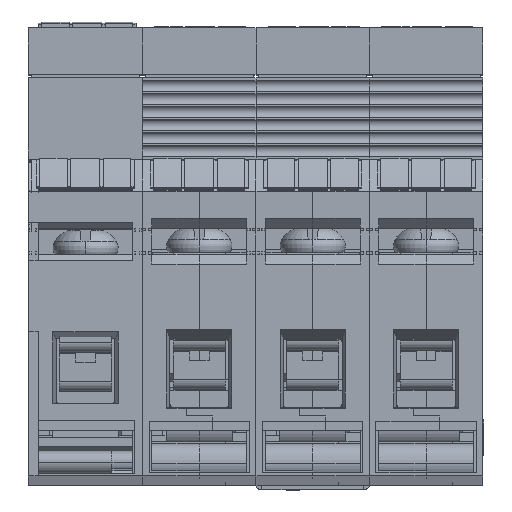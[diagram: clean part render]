
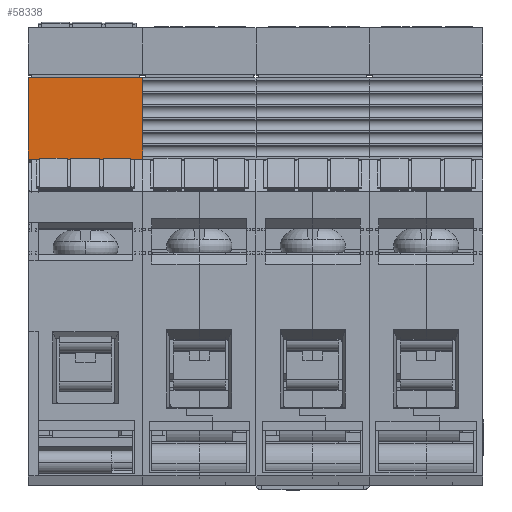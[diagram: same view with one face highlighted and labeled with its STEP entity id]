
A CAD part, top view. The second image highlights one B-rep face of the part: STEP entity #58338.
In plain terms, the highlighted planar face has unit normal (0, 0, 1).
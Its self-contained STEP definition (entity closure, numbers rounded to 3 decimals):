
#583 = DIRECTION ( 'NONE',  ( 1., 0., 0. ) ) ;
#2549 = ORIENTED_EDGE ( 'NONE', *, *, #37283, .T. ) ;
#2748 = VECTOR ( 'NONE', #9735, 1000. ) ;
#9735 = DIRECTION ( 'NONE',  ( 0., -1., 0. ) ) ;
#11425 = FACE_OUTER_BOUND ( 'NONE', #98272, .T. ) ;
#11807 = ORIENTED_EDGE ( 'NONE', *, *, #63575, .F. ) ;
#12043 = DIRECTION ( 'NONE',  ( 1., 0., 0. ) ) ;
#17122 = ORIENTED_EDGE ( 'NONE', *, *, #21855, .F. ) ;
#21736 = CARTESIAN_POINT ( 'NONE',  ( -17.5, 45.6, 22.5 ) ) ;
#21855 = EDGE_CURVE ( 'NONE', #61996, #44784, #113701, .T. ) ;
#23361 = DIRECTION ( 'NONE',  ( 0., -1., 0. ) ) ;
#23827 = EDGE_CURVE ( 'NONE', #61996, #57536, #46014, .T. ) ;
#33471 = LINE ( 'NONE', #102744, #2748 ) ;
#37283 = EDGE_CURVE ( 'NONE', #57536, #37284, #66214, .T. ) ;
#37284 = VERTEX_POINT ( 'NONE', #94880 ) ;
#44784 = VERTEX_POINT ( 'NONE', #61916 ) ;
#46014 = LINE ( 'NONE', #107423, #97074 ) ;
#48748 = PLANE ( 'NONE',  #107609 ) ;
#56086 = CARTESIAN_POINT ( 'NONE',  ( -17.5, 33., 22.5 ) ) ;
#57536 = VERTEX_POINT ( 'NONE', #98750 ) ;
#58338 = ADVANCED_FACE ( 'NONE', ( #11425 ), #48748, .T. ) ;
#61916 = CARTESIAN_POINT ( 'NONE',  ( 0., 45.6, 22.5 ) ) ;
#61996 = VERTEX_POINT ( 'NONE', #117373 ) ;
#63575 = EDGE_CURVE ( 'NONE', #44784, #37284, #33471, .T. ) ;
#66214 = LINE ( 'NONE', #56086, #120133 ) ;
#67571 = DIRECTION ( 'NONE',  ( 0., 0., 1. ) ) ;
#68159 = ORIENTED_EDGE ( 'NONE', *, *, #23827, .T. ) ;
#85558 = CARTESIAN_POINT ( 'NONE',  ( -17.5, 33., 22.5 ) ) ;
#86670 = DIRECTION ( 'NONE',  ( 1., 0., 0. ) ) ;
#94880 = CARTESIAN_POINT ( 'NONE',  ( 0., 33., 22.5 ) ) ;
#97074 = VECTOR ( 'NONE', #23361, 1000. ) ;
#98272 = EDGE_LOOP ( 'NONE', ( #17122, #68159, #2549, #11807 ) ) ;
#98750 = CARTESIAN_POINT ( 'NONE',  ( -17.5, 33., 22.5 ) ) ;
#102744 = CARTESIAN_POINT ( 'NONE',  ( 0., 33., 22.5 ) ) ;
#103517 = VECTOR ( 'NONE', #86670, 1000. ) ;
#107423 = CARTESIAN_POINT ( 'NONE',  ( -17.5, 33., 22.5 ) ) ;
#107609 = AXIS2_PLACEMENT_3D ( 'NONE', #85558, #67571, #12043 ) ;
#113701 = LINE ( 'NONE', #21736, #103517 ) ;
#117373 = CARTESIAN_POINT ( 'NONE',  ( -17.5, 45.6, 22.5 ) ) ;
#120133 = VECTOR ( 'NONE', #583, 1000. ) ;
